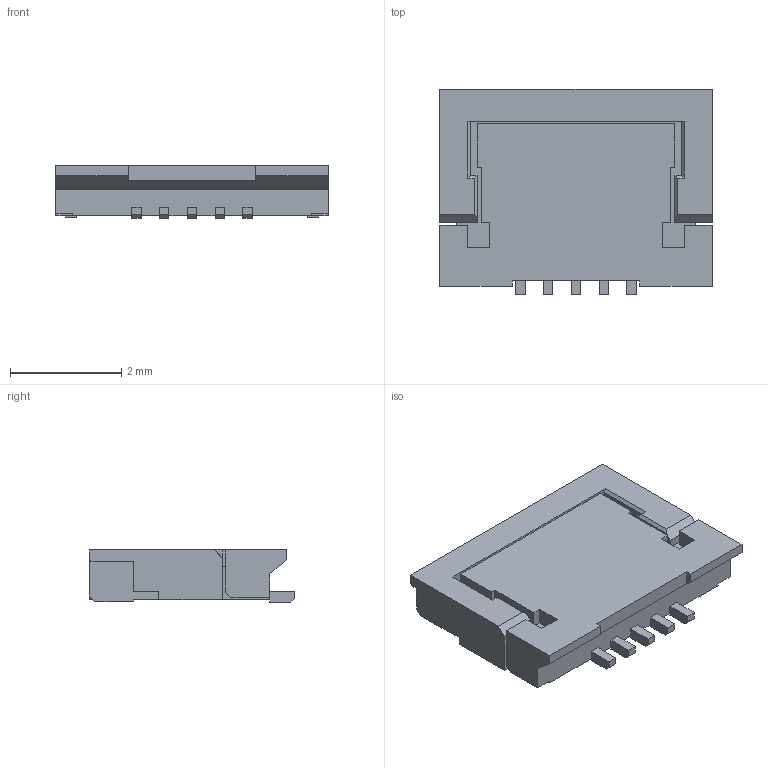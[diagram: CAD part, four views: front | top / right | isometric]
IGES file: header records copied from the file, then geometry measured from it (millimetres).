
Start section: START RECORD GO HERE.
Global section: file name: 00_6298_005_000_xxx.igs; native system: IBM CATIA IGES - CATIA Version 5 Release 14 ; preprocessor: CATIA Version 5 Release 14 ; author: Engineering Dept.; organization: KYOCERA ELCO Corporation; date: 20060721.170804; units: millimetre
Bounding box: 4.9 x 3.7 x 0.94 mm (x, y, z)
Surface area: 72.7 mm2 (no closed solid volume)
Topology: 0 solids, 0 shells, 132 faces, 858 edges, 858 vertices
Faces by surface type: plane 132
